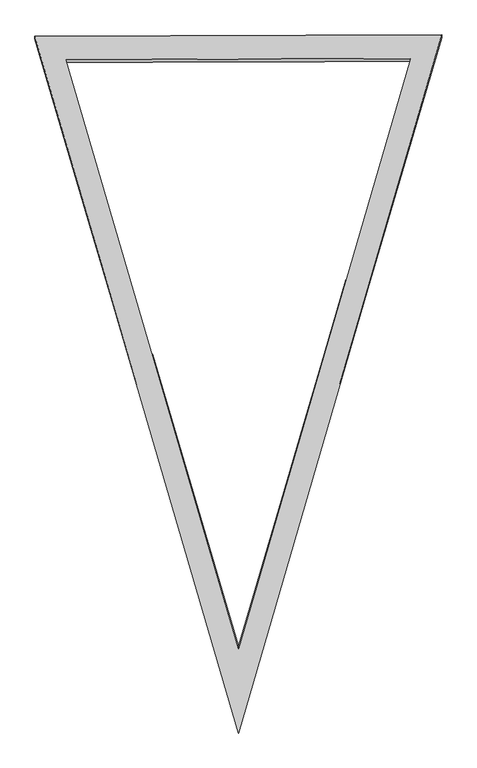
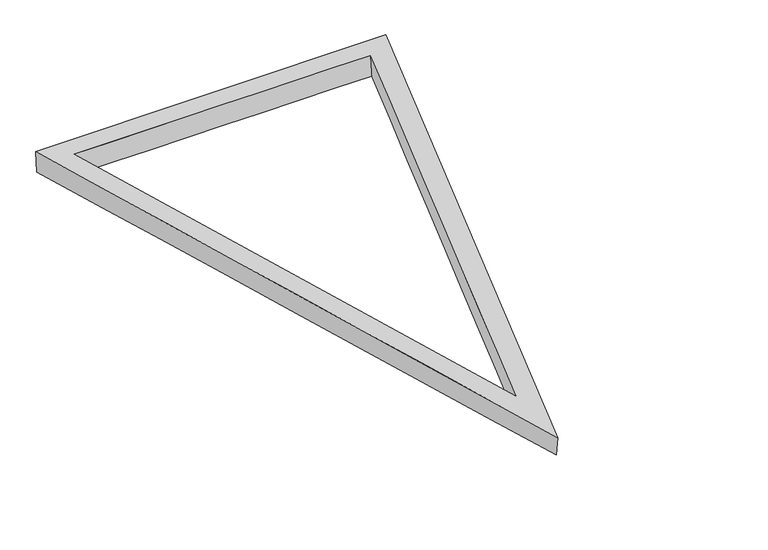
"""IFC4 building model written with IfcOpenShell, lengths in millimetres: plate geometry."""

from ifc_helpers import new_model, si_unit, frame, origin, place, context, project, spatial, source, transform, mapped, element, save
from ifc_brep_helpers import plane_surface, spline_surface, advanced_brep


def plate_faf148f7(model_context):
    return source(origin(), model_context, "Body", "AdvancedBrep", [
        advanced_brep(
        [(4613.7944176, 6857.6676018, 0.0), (4613.1153122, 6880.543892, 201.8869536), (6096.7861272, 1806.9505185, 201.3276762), (6095.8399935, 1829.2940538, 0.0), (7578.5129458, 6889.4478848, 201.8136068), (7577.8855693, 6865.9296632, 0.0), (6096.0, 1110.0002642, 0.0), (7849.7154073, 7069.8881469, 0.0), (7849.6496953, 7093.4629231, 201.8278118), (6097.0850054, 1081.9597844, 201.2530602), (4342.2845927, 7060.111589, 0.0), (4342.2209851, 7082.9314114, 201.9145652)],
        [
            (0, 1),
            (1, 2),
            (2, 3),
            (3, 0),
            (2, 4),
            (4, 5),
            (5, 3),
            (0, 5),
            (4, 1),
            (6, 7),
            (7, 8),
            (8, 9),
            (9, 6),
            (7, 10),
            (10, 11),
            (11, 8),
            (9, 11),
            (10, 6),
        ],
        [
            spline_surface(1, 1, [[(4613.7944176, 6857.6676018, 0.0), (6095.8399935, 1829.2940538, 0.0)], [(4613.1153122, 6880.543892, 201.8869536), (6096.7861272, 1806.9505185, 201.3276762)]], [2, 2], [2, 2], [0.0, 1.0], [0.0, 1.0]),
            spline_surface(1, 1, [[(6095.8399935, 1829.2940538, 0.0), (7577.8855693, 6865.9296632, 0.0)], [(6096.7861272, 1806.9505185, 201.3276762), (7578.5129458, 6889.4478848, 201.8136068)]], [2, 2], [2, 2], [0.0, 1.0], [0.0, 1.0]),
            spline_surface(1, 1, [[(7577.8855693, 6865.9296632, 0.0), (4613.7944176, 6857.6676018, 0.0)], [(7578.5129458, 6889.4478848, 201.8136068), (4613.1153122, 6880.543892, 201.8869536)]], [2, 2], [2, 2], [0.0, 1.0], [0.0, 1.0]),
            spline_surface(1, 1, [[(6096.0, 1110.0002642, 0.0), (6097.0850054, 1081.9597844, 201.2530602)], [(7849.7154073, 7069.8881469, 0.0), (7849.6496953, 7093.4629231, 201.8278118)]], [2, 2], [2, 2], [0.0, 1.0], [0.0, 1.0]),
            spline_surface(1, 1, [[(7849.7154073, 7069.8881469, 0.0), (7849.6496953, 7093.4629231, 201.8278118)], [(4342.2845927, 7060.111589, 0.0), (4342.2209851, 7082.9314114, 201.9145652)]], [2, 2], [2, 2], [0.0, 1.0], [0.0, 1.0]),
            spline_surface(1, 1, [[(4342.2845927, 7060.111589, 0.0), (4342.2209851, 7082.9314114, 201.9145652)], [(6096.0, 1110.0002642, 0.0), (6097.0850054, 1081.9597844, 201.2530602)]], [2, 2], [2, 2], [0.0, 1.0], [0.0, 1.0]),
            plane_surface(frame((6096.3185619, 5086.1180396, 201.6651458), z_axis=(2.5043207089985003e-05, -0.00010290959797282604, 0.9999999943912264), x_axis=(0.28067512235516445, -0.9598028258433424, -0.00010580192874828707))),
            plane_surface(frame((6096.0, 5080.0, 0.0), z_axis=(0.0, 0.0, -1.0), x_axis=(-0.2827126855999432, 0.9592046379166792, 0.0))),
        ],
        [
            (0, [[1, 2, 3, 4]]),
            (1, [[-3, 5, 6, 7]]),
            (2, [[-1, 8, -6, 9]]),
            (3, [[10, 11, 12, 13]]),
            (4, [[-11, 14, 15, 16]]),
            (5, [[-13, 17, -15, 18]]),
            (6, [[-12, -16, -17], [-2, -9, -5]]),
            (7, [[-10, -18, -14], [-4, -7, -8]]),
        ],
    ),
    ])


if __name__ == "__main__":
    model = new_model("IFC4")
    model_context = context("Model", 3, world=origin())
    ifc_project = project(units=[si_unit("LENGTHUNIT", "METRE", prefix="MILLI")], contexts=[model_context])
    site = spatial("IfcSite", under=ifc_project)
    building = spatial("IfcBuilding", under=site)
    placement = place(None, origin())
    plate_shape = plate_faf148f7(model_context)
    element("IfcPlate", 1, ObjectType="tn_cpanel_patbase_triangle_flat_seamless_frame_02_cylinder : tn_triangle_seamless_frame_t8\"xh8\"", at=placement, inside=building, context=model_context, shape_type="MappedRepresentation", body=[
        mapped(plate_shape, transform((0.0, 0.0, 0.0), x_axis=(1.0, 0.0, 0.0), y_axis=(0.0, 1.0, 0.0), z_axis=(0.0, 0.0, 1.0))),
    ])
    save(model, "model.ifc")
